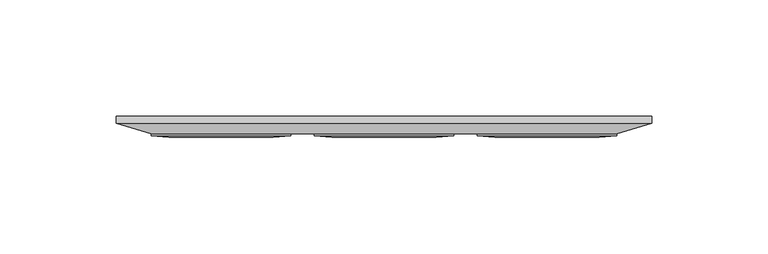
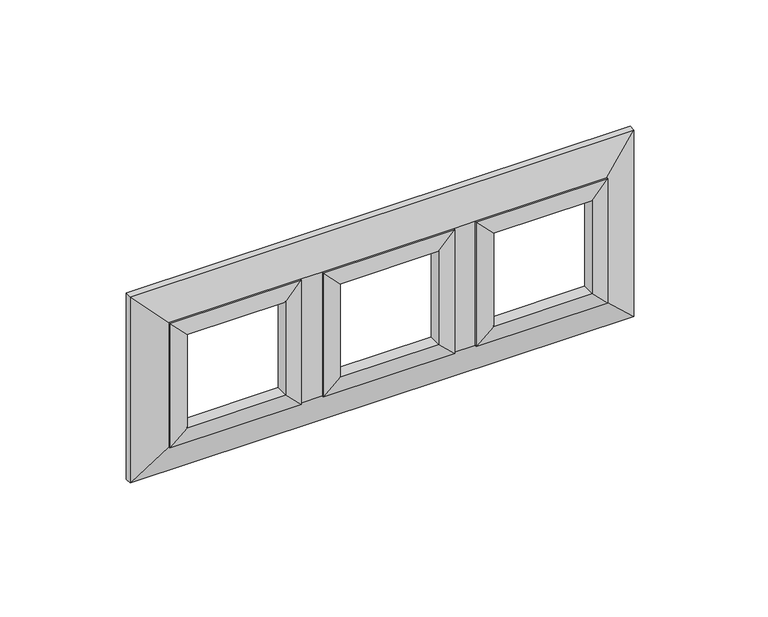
"""IFC4 building model written with IfcOpenShell, lengths in millimetres: proxy geometry."""

import ifcopenshell
import ifcopenshell.guid

model = None  # the IFC model being written
_history = None  # IfcOwnerHistory: only IFC2X3 demands one
_inside = {}  # id of a spatial element -> (the spatial element, [elements in it])
_under = {}  # id of a project, library or spatial element -> (it, [spatial elements below it])
_declared = {}  # id of a project -> (the project, [libraries it declares])
_typed = {}  # id of a type object -> (the type object, [elements of that type])
_made_of = {}  # id of a material, layer set ... -> (it, [elements and type objects made of it])


def new_model(schema):
    """Start an empty IFC model of exactly this schema.

    Asked for "IFC4X3", IfcOpenShell would pick the latest addendum, in which some entities
    have other attributes; the version numbers below select the first issue.
    IFC2X3 requires an IfcOwnerHistory on every rooted entity: one is made here for all.
    """
    global model, _history
    if schema == "IFC4X3":
        model = ifcopenshell.file(schema_version=(4, 3, 0, 0))
    else:
        model = ifcopenshell.file(schema=schema)
    _inside.clear()
    _under.clear()
    _declared.clear()
    _typed.clear()
    _made_of.clear()
    _history = None
    if model.schema == "IFC2X3":
        org = make("IfcOrganization", Name="unknown")
        user = make(
            "IfcPersonAndOrganization",
            ThePerson=make("IfcPerson", FamilyName="unknown"),
            TheOrganization=org,
        )
        app = make(
            "IfcApplication",
            ApplicationDeveloper=org,
            Version="unknown",
            ApplicationFullName="unknown",
            ApplicationIdentifier="unknown",
        )
        _history = make(
            "IfcOwnerHistory",
            OwningUser=user,
            OwningApplication=app,
            ChangeAction="ADDED",
            CreationDate=0,
        )
    return model


def make(cls, **values):
    """One entity of the class cls with the attributes given. An attribute that is None is left unset."""
    return model.create_entity(
        cls, **{name: value for name, value in values.items() if value is not None}
    )


def rooted(cls, **values):
    """An entity with a GlobalId (a new one), such as an element, a storey or a relation."""
    return make(cls, GlobalId=ifcopenshell.guid.new(), OwnerHistory=_history, **values)


def si_unit(unit_type, name, prefix=None):
    """IfcSIUnit, for example si_unit("LENGTHUNIT", "METRE", prefix="MILLI")."""
    return make("IfcSIUnit", UnitType=unit_type, Prefix=prefix, Name=name)


def assignment(units):
    """IfcUnitAssignment: the units of a project."""
    return None if units is None else make("IfcUnitAssignment", Units=units)


def point(xyz):
    """IfcCartesianPoint."""
    return None if xyz is None else make("IfcCartesianPoint", Coordinates=xyz)


def direction(xyz):
    """IfcDirection."""
    return None if xyz is None else make("IfcDirection", DirectionRatios=xyz)


def frame(location, z_axis=None, x_axis=None):
    """IfcAxis2Placement3D, a coordinate frame: its origin and axes. An axis left out is left unset."""
    return make(
        "IfcAxis2Placement3D",
        Location=point(location),
        Axis=direction(z_axis),
        RefDirection=direction(x_axis),
    )


def origin():
    """The frame at (0, 0, 0) with its axes left unset."""
    return frame((0.0, 0.0, 0.0))


def place(relative_to, where):
    """IfcLocalPlacement: puts the frame where relative to a parent placement (None: the world)."""
    return make(
        "IfcLocalPlacement", PlacementRelTo=relative_to, RelativePlacement=where
    )


def context(
    kind, dimensions, precision=None, world=None, true_north=None, identifier=None
):
    """IfcGeometricRepresentationContext, for example the 3D "Model" context."""
    return make(
        "IfcGeometricRepresentationContext",
        ContextIdentifier=identifier,
        ContextType=kind,
        CoordinateSpaceDimension=dimensions,
        Precision=precision,
        WorldCoordinateSystem=world,
        TrueNorth=true_north,
    )


def project(units=None, contexts=None):
    """IfcProject with its units and contexts."""
    return rooted(
        "IfcProject",
        Name="project",
        RepresentationContexts=contexts,
        UnitsInContext=assignment(units),
    )


def spatial(cls, under=None, at=None, **own):
    """A site, building, storey or space (cls), placed at a placement, below another one or the project."""
    s = rooted(cls, ObjectPlacement=at, **own)
    if under is not None:
        _under.setdefault(under.id(), (under, []))[1].append(s)
    return s


def faces_of(points, faces, orient=None, outer=None):
    """IfcFace entities. A face is a list of loops; a loop is a list of indices into points, from 0.

    orient and outer hold one flag for each loop. By default every Orientation is true, the
    first loop of a face is its IfcFaceOuterBound and the others are IfcFaceBound.
    """
    made = []
    for i, loops in enumerate(faces):
        bounds = []
        for j, loop in enumerate(loops):
            is_outer = j == 0 if outer is None else outer[i][j]
            bounds.append(
                make(
                    "IfcFaceOuterBound" if is_outer else "IfcFaceBound",
                    Bound=make("IfcPolyLoop", Polygon=[points[k] for k in loop]),
                    Orientation=True if orient is None else orient[i][j],
                )
            )
        made.append(make("IfcFace", Bounds=bounds))
    return made


def faceted_brep(points, faces, orient=None, outer=None, voids=None):
    """IfcFacetedBrep: a solid bounded by flat faces; with voids (closed shells), ...WithVoids."""
    shared = [point(p) for p in points]
    hull = make("IfcClosedShell", CfsFaces=faces_of(shared, faces, orient, outer))
    if voids is None:
        return make("IfcFacetedBrep", Outer=hull)
    return make(
        "IfcFacetedBrepWithVoids",
        Outer=hull,
        Voids=[
            make(cls, CfsFaces=faces_of(shared, fs, o, b)) for cls, fs, o, b in voids
        ],
    )


def shape(context_of_items, identifier, shape_type, items):
    """IfcShapeRepresentation: the items that make up one representation, for example the "Body"."""
    return make(
        "IfcShapeRepresentation",
        ContextOfItems=context_of_items,
        RepresentationIdentifier=identifier,
        RepresentationType=shape_type,
        Items=items,
    )


def source(mapping_origin, context_of_items, identifier, shape_type, items):
    """IfcRepresentationMap: a shape defined once, which mapped items show again and again."""
    return make(
        "IfcRepresentationMap",
        MappingOrigin=mapping_origin,
        MappedRepresentation=shape(context_of_items, identifier, shape_type, items),
    )


def transform(
    local_origin,
    x_axis=None,
    y_axis=None,
    z_axis=None,
    scale=None,
    scale2=None,
    scale3=None,
    uniform=True,
):
    """IfcCartesianTransformationOperator3D, or its non-uniform kind. x_axis, y_axis, z_axis: its Axis1, 2, 3."""
    if uniform:
        return make(
            "IfcCartesianTransformationOperator3D",
            Axis1=direction(x_axis),
            Axis2=direction(y_axis),
            LocalOrigin=point(local_origin),
            Scale=scale,
            Axis3=direction(z_axis),
        )
    return make(
        "IfcCartesianTransformationOperator3DnonUniform",
        Axis1=direction(x_axis),
        Axis2=direction(y_axis),
        LocalOrigin=point(local_origin),
        Scale=scale,
        Axis3=direction(z_axis),
        Scale2=scale2,
        Scale3=scale3,
    )


def mapped(mapping_source, mapping_target):
    """IfcMappedItem: shows the shape of a source again, moved by a transform."""
    return make(
        "IfcMappedItem", MappingSource=mapping_source, MappingTarget=mapping_target
    )


def made_of(thing, what):
    """Note that an element or type object is made of a material, layer set ...; save() writes the relation."""
    if what is not None:
        _made_of.setdefault(what.id(), (what, []))[1].append(thing)
    return thing


def element(
    cls,
    number,
    at=None,
    inside=None,
    cuts=None,
    type_object=None,
    material=None,
    context=None,
    identifier="Body",
    shape_type=None,
    held_by="IfcProductDefinitionShape",
    body=None,
    shapes=None,
    **own,
):
    """One element of the class cls, such as IfcWall. Its Tag is "e" and its number.

    at: its placement. inside: the storey or other place that contains it. cuts: it is an
    opening in that element (IfcRelVoidsElement). A single representation is given by context,
    identifier, shape_type and body (its items); several are given by shapes. held_by: the class
    of the entity that holds the representations. save() writes the other relations.
    """
    e = rooted(cls, Tag="e%d" % number, ObjectPlacement=at, **own)
    if body is not None:
        shapes = [shape(context, identifier, shape_type, body)]
    if shapes is not None:
        e.Representation = make(held_by, Representations=shapes)
    if inside is not None:
        _inside.setdefault(inside.id(), (inside, []))[1].append(e)
    if cuts is not None:
        rooted(
            "IfcRelVoidsElement", RelatingBuildingElement=cuts, RelatedOpeningElement=e
        )
    if type_object is not None:
        _typed.setdefault(type_object.id(), (type_object, []))[1].append(e)
    return made_of(e, material)


def aggregate(whole, parts):
    """IfcRelAggregates: a whole, such as a stair, and the parts it consists of."""
    return rooted("IfcRelAggregates", RelatingObject=whole, RelatedObjects=parts)


def save(model, path):
    """Write the relations noted so far, then the file.

    IfcRelAggregates (storeys below a building ...), IfcRelContainedInSpatialStructure (elements
    in a storey), IfcRelDefinesByType, IfcRelAssociatesMaterial and IfcRelDeclares: one each for
    every whole, place, type object, material and project.
    """
    for whole, parts in _under.values():
        aggregate(whole, parts)
    for where, things in _inside.values():
        rooted(
            "IfcRelContainedInSpatialStructure",
            RelatedElements=things,
            RelatingStructure=where,
        )
    for kind, things in _typed.values():
        rooted("IfcRelDefinesByType", RelatedObjects=things, RelatingType=kind)
    for what, things in _made_of.values():
        rooted("IfcRelAssociatesMaterial", RelatedObjects=things, RelatingMaterial=what)
    for by, libraries in _declared.values():
        rooted("IfcRelDeclares", RelatingContext=by, RelatedDefinitions=libraries)
    model.write(path)


def electrical_fixtures_fd861027(model_context):
    return source(origin(), model_context, "Body", "Brep", [
        faceted_brep([(115.0, 0.0, -45.0), (-115.0, 0.0, -45.0), (-115.0, 0.0, 45.0), (115.0, 0.0, 45.0), (105.5, 0.0, 35.5), (-105.5, 0.0, 35.5), (-105.5, 0.0, -35.5), (105.5, 0.0, -35.5), (115.0, -3.0228771, 45.0), (115.0, -3.0228771, -45.0), (100.0116526, -7.5, 30.0116526), (100.0116526, -7.5, -30.0116526), (-115.0, -3.0228771, 45.0), (-100.0116526, -7.5, 30.0116526), (-39.9883474, -7.5, 30.0116526), (-30.0116526, -7.5, 30.0116526), (30.0116526, -7.5, 30.0116526), (39.9883474, -7.5, 30.0116526), (-115.0, -3.0228771, -45.0), (-100.0116526, -7.5, -30.0116526), (39.9883474, -7.5, -30.0116526), (30.0116526, -7.5, -30.0116526), (-30.0116526, -7.5, -30.0116526), (-39.9883474, -7.5, -30.0116526), (105.5, -3.0, -35.5), (105.5, -3.0, 35.5), (-105.5, -3.0, 35.5), (-105.5, -3.0, -35.5), (-47.5, -3.0, -22.5), (-47.5, -3.0, 22.5), (-92.5, -3.0, 22.5), (-92.5, -3.0, -22.5), (92.5, -3.0, -22.5), (92.5, -3.0, 22.5), (47.5, -3.0, 22.5), (47.5, -3.0, -22.5), (22.5, -3.0, -22.5), (22.5, -3.0, 22.5), (-22.5, -3.0, 22.5), (-22.5, -3.0, -22.5), (-47.5, -9.0, -22.5), (-47.5, -9.0, 22.5), (-92.5, -9.0, 22.5), (-92.5, -9.0, -22.5), (-39.9883474, -8.3, 30.0116526), (-39.9883474, -8.3, -30.0116526), (-100.0116526, -8.3, 30.0116526), (-100.0116526, -8.3, -30.0116526), (92.5, -9.0, -22.5), (92.5, -9.0, 22.5), (47.5, -9.0, 22.5), (47.5, -9.0, -22.5), (100.0116526, -8.3, 30.0116526), (100.0116526, -8.3, -30.0116526), (39.9883474, -8.3, 30.0116526), (39.9883474, -8.3, -30.0116526), (22.5, -9.0, -22.5), (22.5, -9.0, 22.5), (-22.5, -9.0, 22.5), (-22.5, -9.0, -22.5), (30.0116526, -8.3, 30.0116526), (30.0116526, -8.3, -30.0116526), (-30.0116526, -8.3, 30.0116526), (-30.0116526, -8.3, -30.0116526)], [[[0, 1, 2, 3], [4, 5, 6, 7]], [[0, 3, 8, 9]], [[9, 8, 10, 11]], [[3, 2, 12, 8]], [[10, 8, 12, 13, 14, 15, 16, 17]], [[2, 1, 18, 12]], [[13, 12, 18, 19]], [[1, 0, 9, 18]], [[9, 11, 20, 21, 22, 23, 19, 18]], [[4, 7, 24, 25]], [[5, 4, 25, 26]], [[6, 5, 26, 27]], [[25, 24, 27, 26], [28, 29, 30, 31], [32, 33, 34, 35], [36, 37, 38, 39]], [[7, 6, 27, 24]], [[28, 40, 41, 29]], [[29, 41, 42, 30]], [[30, 42, 43, 31]], [[40, 28, 31, 43]], [[44, 45, 23, 14]], [[41, 40, 45, 44]], [[46, 44, 14, 13]], [[42, 41, 44, 46]], [[47, 46, 13, 19]], [[43, 42, 46, 47]], [[45, 47, 19, 23]], [[40, 43, 47, 45]], [[32, 48, 49, 33]], [[33, 49, 50, 34]], [[34, 50, 51, 35]], [[48, 32, 35, 51]], [[52, 53, 11, 10]], [[49, 48, 53, 52]], [[54, 52, 10, 17]], [[50, 49, 52, 54]], [[55, 54, 17, 20]], [[51, 50, 54, 55]], [[53, 55, 20, 11]], [[48, 51, 55, 53]], [[15, 14, 23, 22]], [[17, 16, 21, 20]], [[36, 56, 57, 37]], [[37, 57, 58, 38]], [[38, 58, 59, 39]], [[56, 36, 39, 59]], [[60, 61, 21, 16]], [[57, 56, 61, 60]], [[62, 60, 16, 15]], [[58, 57, 60, 62]], [[63, 62, 15, 22]], [[59, 58, 62, 63]], [[61, 63, 22, 21]], [[56, 59, 63, 61]]]),
    ])


if __name__ == "__main__":
    model = new_model("IFC4")
    model_context = context("Model", 3, world=origin())
    ifc_project = project(units=[si_unit("LENGTHUNIT", "METRE", prefix="MILLI")], contexts=[model_context])
    site = spatial("IfcSite", under=ifc_project)
    building = spatial("IfcBuilding", under=site)
    placement = place(None, origin())
    electrical_fixtures_shape = electrical_fixtures_fd861027(model_context)
    element("IfcBuildingElementProxy", 1, Name="Electrical Fixtures", at=placement, inside=building, context=model_context, shape_type="MappedRepresentation", body=[
        mapped(electrical_fixtures_shape, transform((0.0, 0.0, 0.0), x_axis=(1.0, 0.0, 0.0), y_axis=(0.0, 1.0, 0.0), z_axis=(0.0, 0.0, 1.0))),
    ])
    save(model, "model.ifc")
